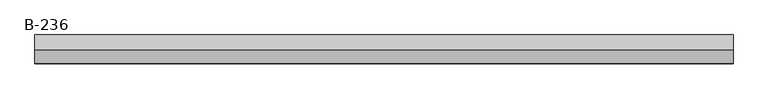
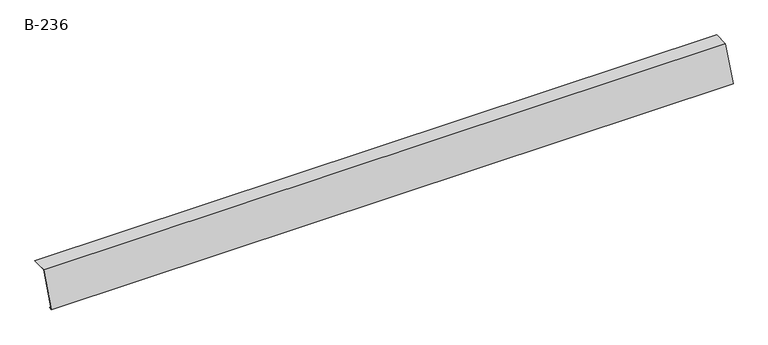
"""IFC4 building model written with IfcOpenShell, lengths in millimetres: proxy geometry, GROVIK_Flashing_Eaves_Custom : B-236."""

from ifc_helpers import new_model, si_unit, frame, origin, place, context, project, spatial, polyline, outline, extrude, source, transform, mapped, element, save


def b_236_e60926e6(model_context):
    return source(origin(), model_context, "Body", "SweptSolid", [
        extrude(outline(polyline([(-0.6918582, 0.9880759), (-57.9129574, -148.077984), (-48.2100002, -145.6587651), (-47.9680783, -146.6290608), (-59.5349563, -149.5130074), (-1.3837164, 1.9761518), (64.9551954, 3.1341018), (64.9726478, 2.1342541), (-0.6918582, 0.9880759)])), frame((0.0, 0.0, 0.0), z_axis=(1.0, 0.0, 0.0), x_axis=(0.0, 1.0, 0.0)), (0.0, 0.0, 1.0), 3000.0),
    ])


if __name__ == "__main__":
    model = new_model("IFC4")
    model_context = context("Model", 3, world=origin())
    ifc_project = project(units=[si_unit("LENGTHUNIT", "METRE", prefix="MILLI")], contexts=[model_context])
    site = spatial("IfcSite", under=ifc_project)
    building = spatial("IfcBuilding", under=site)
    placement = place(None, origin())
    b_236_shape = b_236_e60926e6(model_context)
    element("IfcBuildingElementProxy", 1, Name="GROVIK_Flashing_Eaves_Custom : B-236", ObjectType="GROVIK_Flashing_Eaves_Custom : B-236", at=placement, inside=building, context=model_context, shape_type="MappedRepresentation", body=[
        mapped(b_236_shape, transform((0.0, 0.0, 0.0), x_axis=(1.0, 0.0, 0.0), y_axis=(0.0, 1.0, 0.0), z_axis=(0.0, 0.0, 1.0))),
    ])
    save(model, "model.ifc")
